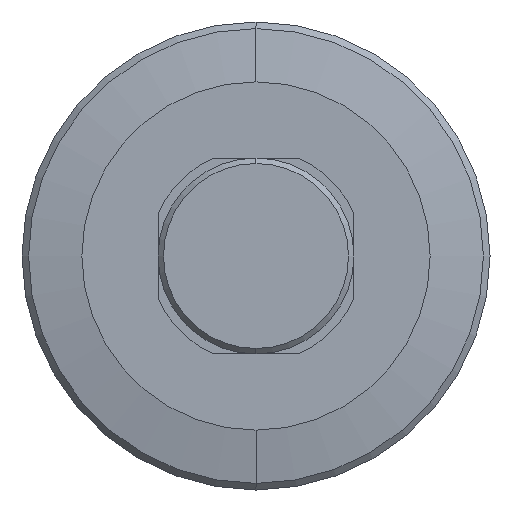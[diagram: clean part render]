
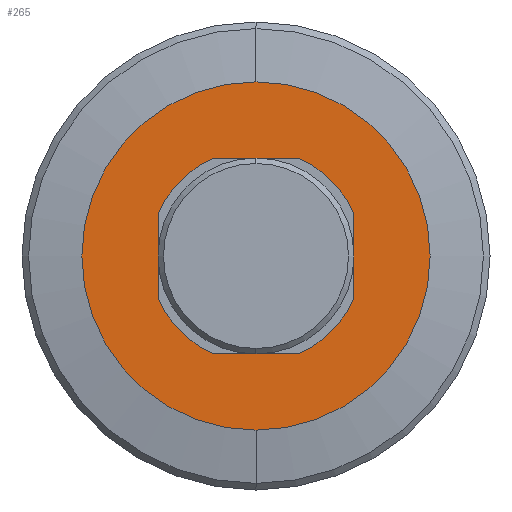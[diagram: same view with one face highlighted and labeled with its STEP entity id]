
A CAD part, left-side view. The second image highlights one B-rep face of the part: STEP entity #265.
In plain terms, the highlighted planar face has unit normal (-1, 0, 0).
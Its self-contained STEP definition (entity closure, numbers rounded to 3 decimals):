
#15 = VECTOR ( 'NONE', #486, 1000. ) ;
#22 = EDGE_LOOP ( 'NONE', ( #766, #333 ) ) ;
#73 = VECTOR ( 'NONE', #962, 1000. ) ;
#84 = AXIS2_PLACEMENT_3D ( 'NONE', #464, #1205, #577 ) ;
#93 = ORIENTED_EDGE ( 'NONE', *, *, #405, .F. ) ;
#97 = CARTESIAN_POINT ( 'NONE',  ( 40.5, 0., 16. ) ) ;
#120 = VERTEX_POINT ( 'NONE', #191 ) ;
#127 = AXIS2_PLACEMENT_3D ( 'NONE', #296, #634, #1353 ) ;
#145 = AXIS2_PLACEMENT_3D ( 'NONE', #1141, #506, #1242 ) ;
#146 = CIRCLE ( 'NONE', #476, 9.8 ) ;
#149 = EDGE_CURVE ( 'NONE', #1049, #1046, #526, .T. ) ;
#160 = CARTESIAN_POINT ( 'NONE',  ( 40.5, 16., 9. ) ) ;
#168 = LINE ( 'NONE', #1374, #73 ) ;
#176 = EDGE_CURVE ( 'NONE', #845, #1049, #917, .T. ) ;
#190 = CARTESIAN_POINT ( 'NONE',  ( 40.5, 3.878, -9. ) ) ;
#191 = CARTESIAN_POINT ( 'NONE',  ( 40.5, -9., -3.878 ) ) ;
#229 = CARTESIAN_POINT ( 'NONE',  ( 40.5, 3.878, 9. ) ) ;
#235 = FACE_OUTER_BOUND ( 'NONE', #22, .T. ) ;
#265 = ADVANCED_FACE ( 'NONE', ( #235, #1164 ), #514, .F. ) ;
#270 = EDGE_LOOP ( 'NONE', ( #482, #93, #471, #1306, #1070, #937, #550, #718 ) ) ;
#271 = DIRECTION ( 'NONE',  ( -1., 0., 0. ) ) ;
#296 = CARTESIAN_POINT ( 'NONE',  ( 40.5, 16., 0. ) ) ;
#333 = ORIENTED_EDGE ( 'NONE', *, *, #1299, .T. ) ;
#335 = VERTEX_POINT ( 'NONE', #190 ) ;
#382 = CARTESIAN_POINT ( 'NONE',  ( 40.5, 9., -3.878 ) ) ;
#388 = CARTESIAN_POINT ( 'NONE',  ( 40.5, 0., 0. ) ) ;
#403 = VERTEX_POINT ( 'NONE', #97 ) ;
#405 = EDGE_CURVE ( 'NONE', #335, #457, #168, .T. ) ;
#457 = VERTEX_POINT ( 'NONE', #1180 ) ;
#464 = CARTESIAN_POINT ( 'NONE',  ( 40.5, 0., 0. ) ) ;
#471 = ORIENTED_EDGE ( 'NONE', *, *, #636, .F. ) ;
#475 = DIRECTION ( 'NONE',  ( -1., 0., 0. ) ) ;
#476 = AXIS2_PLACEMENT_3D ( 'NONE', #1109, #475, #1217 ) ;
#482 = ORIENTED_EDGE ( 'NONE', *, *, #1350, .F. ) ;
#486 = DIRECTION ( 'NONE',  ( 0., 0., 1. ) ) ;
#496 = CIRCLE ( 'NONE', #145, 9.8 ) ;
#506 = DIRECTION ( 'NONE',  ( -1., 0., 0. ) ) ;
#514 = PLANE ( 'NONE',  #127 ) ;
#526 = CIRCLE ( 'NONE', #956, 9.8 ) ;
#550 = ORIENTED_EDGE ( 'NONE', *, *, #789, .F. ) ;
#577 = DIRECTION ( 'NONE',  ( 0., 0., 1. ) ) ;
#625 = DIRECTION ( 'NONE',  ( -1., 0., 0. ) ) ;
#634 = DIRECTION ( 'NONE',  ( 1., 0., 0. ) ) ;
#636 = EDGE_CURVE ( 'NONE', #750, #335, #146, .T. ) ;
#693 = EDGE_CURVE ( 'NONE', #120, #734, #853, .T. ) ;
#718 = ORIENTED_EDGE ( 'NONE', *, *, #693, .F. ) ;
#725 = DIRECTION ( 'NONE',  ( 0., 0., 1. ) ) ;
#734 = VERTEX_POINT ( 'NONE', #1233 ) ;
#750 = VERTEX_POINT ( 'NONE', #382 ) ;
#766 = ORIENTED_EDGE ( 'NONE', *, *, #1075, .T. ) ;
#789 = EDGE_CURVE ( 'NONE', #734, #845, #496, .T. ) ;
#845 = VERTEX_POINT ( 'NONE', #953 ) ;
#853 = LINE ( 'NONE', #1120, #15 ) ;
#874 = CARTESIAN_POINT ( 'NONE',  ( 40.5, 9., 0. ) ) ;
#883 = CARTESIAN_POINT ( 'NONE',  ( 40.5, 9., 3.878 ) ) ;
#917 = LINE ( 'NONE', #160, #950 ) ;
#918 = CARTESIAN_POINT ( 'NONE',  ( 40.5, 0., 0. ) ) ;
#930 = CARTESIAN_POINT ( 'NONE',  ( 40.5, 0., -16. ) ) ;
#937 = ORIENTED_EDGE ( 'NONE', *, *, #176, .F. ) ;
#949 = AXIS2_PLACEMENT_3D ( 'NONE', #1246, #625, #1346 ) ;
#950 = VECTOR ( 'NONE', #1028, 1000. ) ;
#953 = CARTESIAN_POINT ( 'NONE',  ( 40.5, -3.878, 9. ) ) ;
#956 = AXIS2_PLACEMENT_3D ( 'NONE', #388, #1171, #725 ) ;
#962 = DIRECTION ( 'NONE',  ( 0., -1., 0. ) ) ;
#971 = DIRECTION ( 'NONE',  ( 0., 0., -1. ) ) ;
#973 = EDGE_CURVE ( 'NONE', #1046, #750, #1317, .T. ) ;
#1022 = DIRECTION ( 'NONE',  ( 0., 0., 1. ) ) ;
#1028 = DIRECTION ( 'NONE',  ( 0., 1., 0. ) ) ;
#1045 = VECTOR ( 'NONE', #971, 1000. ) ;
#1046 = VERTEX_POINT ( 'NONE', #883 ) ;
#1049 = VERTEX_POINT ( 'NONE', #229 ) ;
#1070 = ORIENTED_EDGE ( 'NONE', *, *, #149, .F. ) ;
#1075 = EDGE_CURVE ( 'NONE', #1343, #403, #1351, .T. ) ;
#1091 = AXIS2_PLACEMENT_3D ( 'NONE', #918, #271, #1022 ) ;
#1109 = CARTESIAN_POINT ( 'NONE',  ( 40.5, 0., 0. ) ) ;
#1120 = CARTESIAN_POINT ( 'NONE',  ( 40.5, -9., 0. ) ) ;
#1141 = CARTESIAN_POINT ( 'NONE',  ( 40.5, 0., 0. ) ) ;
#1164 = FACE_BOUND ( 'NONE', #270, .T. ) ;
#1171 = DIRECTION ( 'NONE',  ( -1., 0., 0. ) ) ;
#1180 = CARTESIAN_POINT ( 'NONE',  ( 40.5, -3.878, -9. ) ) ;
#1205 = DIRECTION ( 'NONE',  ( -1., 0., 0. ) ) ;
#1208 = CIRCLE ( 'NONE', #949, 9.8 ) ;
#1217 = DIRECTION ( 'NONE',  ( 0., 0., 1. ) ) ;
#1233 = CARTESIAN_POINT ( 'NONE',  ( 40.5, -9., 3.878 ) ) ;
#1242 = DIRECTION ( 'NONE',  ( 0., 0., 1. ) ) ;
#1246 = CARTESIAN_POINT ( 'NONE',  ( 40.5, 0., 0. ) ) ;
#1299 = EDGE_CURVE ( 'NONE', #403, #1343, #1332, .T. ) ;
#1306 = ORIENTED_EDGE ( 'NONE', *, *, #973, .F. ) ;
#1317 = LINE ( 'NONE', #874, #1045 ) ;
#1332 = CIRCLE ( 'NONE', #1091, 16. ) ;
#1343 = VERTEX_POINT ( 'NONE', #930 ) ;
#1346 = DIRECTION ( 'NONE',  ( 0., 0., 1. ) ) ;
#1350 = EDGE_CURVE ( 'NONE', #457, #120, #1208, .T. ) ;
#1351 = CIRCLE ( 'NONE', #84, 16. ) ;
#1353 = DIRECTION ( 'NONE',  ( 0., 0., -1. ) ) ;
#1374 = CARTESIAN_POINT ( 'NONE',  ( 40.5, 16., -9. ) ) ;
